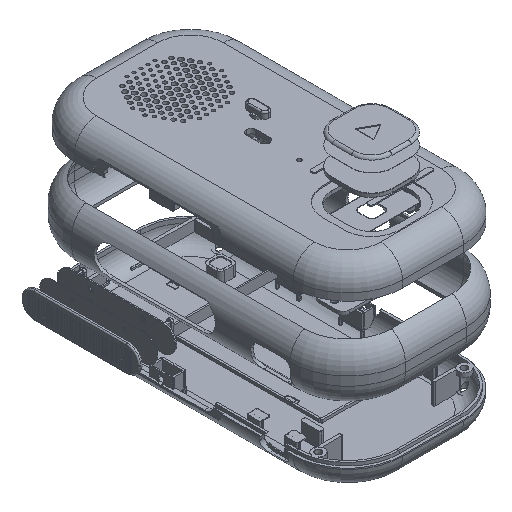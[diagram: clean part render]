
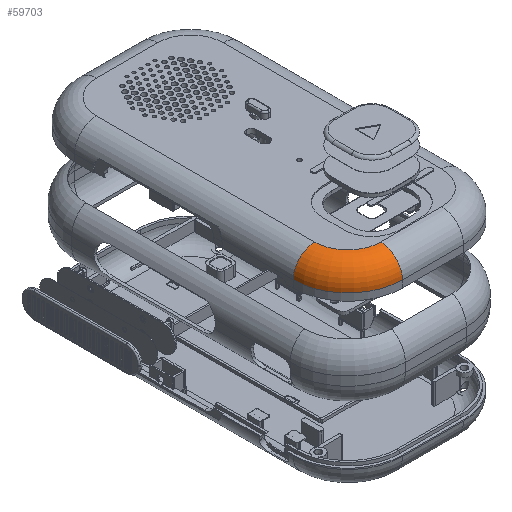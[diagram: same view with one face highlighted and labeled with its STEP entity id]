
A CAD part, isometric view. The second image highlights one B-rep face of the part: STEP entity #59703.
In plain terms, the highlighted toroidal (fillet/blend) face has major radius 15 mm and minor radius 10 mm.
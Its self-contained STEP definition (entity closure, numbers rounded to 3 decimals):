
#18097 = PLANE('',#18098);
#18098 = AXIS2_PLACEMENT_3D('',#18099,#18100,#18101);
#18099 = CARTESIAN_POINT('',(0.,0.,0.));
#18100 = DIRECTION('',(0.,0.,-1.));
#18101 = DIRECTION('',(-1.,0.,0.));
#42239 = VERTEX_POINT('',#42240);
#42240 = CARTESIAN_POINT('',(-14.,-65.,0.));
#42254 = CYLINDRICAL_SURFACE('',#42255,10.);
#42255 = AXIS2_PLACEMENT_3D('',#42256,#42257,#42258);
#42256 = CARTESIAN_POINT('',(7.,-65.,-10.));
#42257 = DIRECTION('',(-1.,0.,0.));
#42258 = DIRECTION('',(0.,-0.707,0.707));
#42266 = EDGE_CURVE('',#42239,#42267,#42269,.T.);
#42267 = VERTEX_POINT('',#42268);
#42268 = CARTESIAN_POINT('',(-29.,-50.,0.));
#42269 = SURFACE_CURVE('',#42270,(#42275,#42282),.PCURVE_S1.);
#42270 = CIRCLE('',#42271,15.);
#42271 = AXIS2_PLACEMENT_3D('',#42272,#42273,#42274);
#42272 = CARTESIAN_POINT('',(-14.,-50.,0.));
#42273 = DIRECTION('',(-0.,0.,-1.));
#42274 = DIRECTION('',(-0.707,-0.707,0.));
#42275 = PCURVE('',#18097,#42276);
#42276 = DEFINITIONAL_REPRESENTATION('',(#42277),#42281);
#42277 = CIRCLE('',#42278,15.);
#42278 = AXIS2_PLACEMENT_2D('',#42279,#42280);
#42279 = CARTESIAN_POINT('',(14.,-50.));
#42280 = DIRECTION('',(0.707,-0.707));
#42281 = ( GEOMETRIC_REPRESENTATION_CONTEXT(2) 
PARAMETRIC_REPRESENTATION_CONTEXT() REPRESENTATION_CONTEXT('2D SPACE',''
  ) );
#42282 = PCURVE('',#42283,#42288);
#42283 = TOROIDAL_SURFACE('',#42284,15.,10.);
#42284 = AXIS2_PLACEMENT_3D('',#42285,#42286,#42287);
#42285 = CARTESIAN_POINT('',(-14.,-50.,-10.));
#42286 = DIRECTION('',(0.,0.,-1.));
#42287 = DIRECTION('',(-1.,0.,0.));
#42288 = DEFINITIONAL_REPRESENTATION('',(#42289),#42293);
#42289 = LINE('',#42290,#42291);
#42290 = CARTESIAN_POINT('',(-0.785,4.712));
#42291 = VECTOR('',#42292,1.);
#42292 = DIRECTION('',(1.,0.));
#42293 = ( GEOMETRIC_REPRESENTATION_CONTEXT(2) 
PARAMETRIC_REPRESENTATION_CONTEXT() REPRESENTATION_CONTEXT('2D SPACE',''
  ) );
#42311 = CYLINDRICAL_SURFACE('',#42312,10.);
#42312 = AXIS2_PLACEMENT_3D('',#42313,#42314,#42315);
#42313 = CARTESIAN_POINT('',(-29.,-25.,-10.));
#42314 = DIRECTION('',(0.,1.,0.));
#42315 = DIRECTION('',(-0.707,0.,0.707));
#59596 = EDGE_CURVE('',#42239,#59597,#59599,.T.);
#59597 = VERTEX_POINT('',#59598);
#59598 = CARTESIAN_POINT('',(-14.,-75.,-10.));
#59599 = SURFACE_CURVE('',#59600,(#59605,#59612),.PCURVE_S1.);
#59600 = CIRCLE('',#59601,10.);
#59601 = AXIS2_PLACEMENT_3D('',#59602,#59603,#59604);
#59602 = CARTESIAN_POINT('',(-14.,-65.,-10.));
#59603 = DIRECTION('',(1.,0.,0.));
#59604 = DIRECTION('',(0.,0.,1.));
#59605 = PCURVE('',#42254,#59606);
#59606 = DEFINITIONAL_REPRESENTATION('',(#59607),#59611);
#59607 = LINE('',#59608,#59609);
#59608 = CARTESIAN_POINT('',(7.069,21.));
#59609 = VECTOR('',#59610,1.);
#59610 = DIRECTION('',(-1.,0.));
#59611 = ( GEOMETRIC_REPRESENTATION_CONTEXT(2) 
PARAMETRIC_REPRESENTATION_CONTEXT() REPRESENTATION_CONTEXT('2D SPACE',''
  ) );
#59612 = PCURVE('',#42283,#59613);
#59613 = DEFINITIONAL_REPRESENTATION('',(#59614),#59618);
#59614 = LINE('',#59615,#59616);
#59615 = CARTESIAN_POINT('',(4.712,4.712));
#59616 = VECTOR('',#59617,1.);
#59617 = DIRECTION('',(0.,1.));
#59618 = ( GEOMETRIC_REPRESENTATION_CONTEXT(2) 
PARAMETRIC_REPRESENTATION_CONTEXT() REPRESENTATION_CONTEXT('2D SPACE',''
  ) );
#59703 = ADVANCED_FACE('',(#59704),#42283,.T.);
#59704 = FACE_BOUND('',#59705,.T.);
#59705 = EDGE_LOOP('',(#59706,#59730,#59757,#59758));
#59706 = ORIENTED_EDGE('',*,*,#59707,.T.);
#59707 = EDGE_CURVE('',#42267,#59708,#59710,.T.);
#59708 = VERTEX_POINT('',#59709);
#59709 = CARTESIAN_POINT('',(-39.,-50.,-10.));
#59710 = SURFACE_CURVE('',#59711,(#59716,#59723),.PCURVE_S1.);
#59711 = CIRCLE('',#59712,10.);
#59712 = AXIS2_PLACEMENT_3D('',#59713,#59714,#59715);
#59713 = CARTESIAN_POINT('',(-29.,-50.,-10.));
#59714 = DIRECTION('',(0.,-1.,0.));
#59715 = DIRECTION('',(0.,0.,1.));
#59716 = PCURVE('',#42283,#59717);
#59717 = DEFINITIONAL_REPRESENTATION('',(#59718),#59722);
#59718 = LINE('',#59719,#59720);
#59719 = CARTESIAN_POINT('',(6.283,4.712));
#59720 = VECTOR('',#59721,1.);
#59721 = DIRECTION('',(0.,1.));
#59722 = ( GEOMETRIC_REPRESENTATION_CONTEXT(2) 
PARAMETRIC_REPRESENTATION_CONTEXT() REPRESENTATION_CONTEXT('2D SPACE',''
  ) );
#59723 = PCURVE('',#42311,#59724);
#59724 = DEFINITIONAL_REPRESENTATION('',(#59725),#59729);
#59725 = LINE('',#59726,#59727);
#59726 = CARTESIAN_POINT('',(7.069,-25.));
#59727 = VECTOR('',#59728,1.);
#59728 = DIRECTION('',(-1.,0.));
#59729 = ( GEOMETRIC_REPRESENTATION_CONTEXT(2) 
PARAMETRIC_REPRESENTATION_CONTEXT() REPRESENTATION_CONTEXT('2D SPACE',''
  ) );
#59730 = ORIENTED_EDGE('',*,*,#59731,.T.);
#59731 = EDGE_CURVE('',#59708,#59597,#59732,.T.);
#59732 = SURFACE_CURVE('',#59733,(#59738,#59745),.PCURVE_S1.);
#59733 = CIRCLE('',#59734,25.);
#59734 = AXIS2_PLACEMENT_3D('',#59735,#59736,#59737);
#59735 = CARTESIAN_POINT('',(-14.,-50.,-10.));
#59736 = DIRECTION('',(0.,0.,1.));
#59737 = DIRECTION('',(-0.707,-0.707,0.));
#59738 = PCURVE('',#42283,#59739);
#59739 = DEFINITIONAL_REPRESENTATION('',(#59740),#59744);
#59740 = LINE('',#59741,#59742);
#59741 = CARTESIAN_POINT('',(11.781,6.283));
#59742 = VECTOR('',#59743,1.);
#59743 = DIRECTION('',(-1.,0.));
#59744 = ( GEOMETRIC_REPRESENTATION_CONTEXT(2) 
PARAMETRIC_REPRESENTATION_CONTEXT() REPRESENTATION_CONTEXT('2D SPACE',''
  ) );
#59745 = PCURVE('',#59746,#59751);
#59746 = CYLINDRICAL_SURFACE('',#59747,25.);
#59747 = AXIS2_PLACEMENT_3D('',#59748,#59749,#59750);
#59748 = CARTESIAN_POINT('',(-14.,-50.,0.));
#59749 = DIRECTION('',(0.,0.,-1.));
#59750 = DIRECTION('',(0.,-1.,0.));
#59751 = DEFINITIONAL_REPRESENTATION('',(#59752),#59756);
#59752 = LINE('',#59753,#59754);
#59753 = CARTESIAN_POINT('',(7.069,10.));
#59754 = VECTOR('',#59755,1.);
#59755 = DIRECTION('',(-1.,0.));
#59756 = ( GEOMETRIC_REPRESENTATION_CONTEXT(2) 
PARAMETRIC_REPRESENTATION_CONTEXT() REPRESENTATION_CONTEXT('2D SPACE',''
  ) );
#59757 = ORIENTED_EDGE('',*,*,#59596,.F.);
#59758 = ORIENTED_EDGE('',*,*,#42266,.T.);
